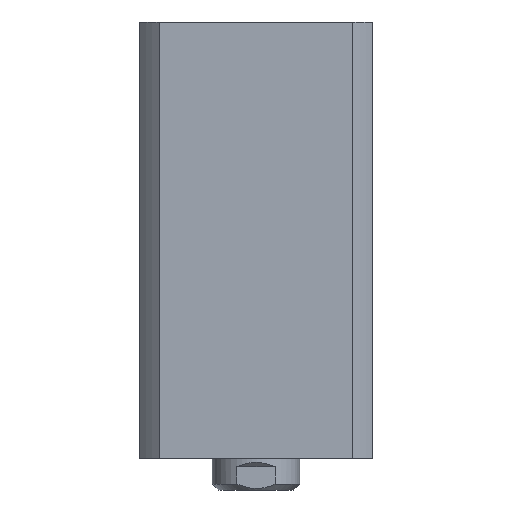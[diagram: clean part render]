
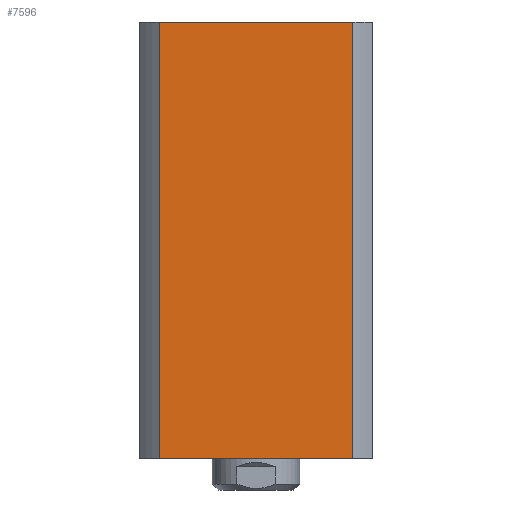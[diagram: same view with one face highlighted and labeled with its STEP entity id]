
A CAD part, left-side view. The second image highlights one B-rep face of the part: STEP entity #7596.
In plain terms, the highlighted planar face has unit normal (-1, 0, 0).
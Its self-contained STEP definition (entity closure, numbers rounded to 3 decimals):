
#680 = DIRECTION ( 'NONE',  ( 0., 0., -1. ) ) ;
#1671 = CARTESIAN_POINT ( 'NONE',  ( -40., 33.226, 75. ) ) ;
#1709 = AXIS2_PLACEMENT_3D ( 'NONE', #3917, #12421, #2785 ) ;
#2449 = DIRECTION ( 'NONE',  ( 0., -1., 0. ) ) ;
#2785 = DIRECTION ( 'NONE',  ( 0., 1., 0. ) ) ;
#2786 = VECTOR ( 'NONE', #14030, 1000. ) ;
#3123 = LINE ( 'NONE', #12796, #2786 ) ;
#3447 = VECTOR ( 'NONE', #8768, 1000. ) ;
#3574 = VERTEX_POINT ( 'NONE', #1671 ) ;
#3724 = ORIENTED_EDGE ( 'NONE', *, *, #12445, .F. ) ;
#3917 = CARTESIAN_POINT ( 'NONE',  ( -40., 33.226, 75. ) ) ;
#4903 = PLANE ( 'NONE',  #1709 ) ;
#5065 = ORIENTED_EDGE ( 'NONE', *, *, #10277, .F. ) ;
#5147 = CARTESIAN_POINT ( 'NONE',  ( -40., -33.226, -75. ) ) ;
#5479 = FACE_OUTER_BOUND ( 'NONE', #9600, .T. ) ;
#6293 = LINE ( 'NONE', #7671, #3447 ) ;
#6571 = VERTEX_POINT ( 'NONE', #10390 ) ;
#7082 = EDGE_CURVE ( 'NONE', #6571, #13546, #10747, .T. ) ;
#7596 = ADVANCED_FACE ( 'NONE', ( #5479 ), #4903, .F. ) ;
#7671 = CARTESIAN_POINT ( 'NONE',  ( -40., 33.226, 75. ) ) ;
#8321 = ORIENTED_EDGE ( 'NONE', *, *, #7082, .T. ) ;
#8433 = VERTEX_POINT ( 'NONE', #8908 ) ;
#8768 = DIRECTION ( 'NONE',  ( 0., -1., 0. ) ) ;
#8908 = CARTESIAN_POINT ( 'NONE',  ( -40., -33.226, 75. ) ) ;
#9176 = EDGE_CURVE ( 'NONE', #3574, #6571, #3123, .T. ) ;
#9600 = EDGE_LOOP ( 'NONE', ( #8321, #3724, #5065, #9605 ) ) ;
#9605 = ORIENTED_EDGE ( 'NONE', *, *, #9176, .T. ) ;
#9735 = VECTOR ( 'NONE', #2449, 1000. ) ;
#9947 = CARTESIAN_POINT ( 'NONE',  ( -40., 33.226, -75. ) ) ;
#10277 = EDGE_CURVE ( 'NONE', #3574, #8433, #6293, .T. ) ;
#10390 = CARTESIAN_POINT ( 'NONE',  ( -40., 33.226, -75. ) ) ;
#10473 = CARTESIAN_POINT ( 'NONE',  ( -40., -33.226, 75. ) ) ;
#10747 = LINE ( 'NONE', #9947, #9735 ) ;
#12024 = LINE ( 'NONE', #10473, #13556 ) ;
#12421 = DIRECTION ( 'NONE',  ( 1., 0., 0. ) ) ;
#12445 = EDGE_CURVE ( 'NONE', #8433, #13546, #12024, .T. ) ;
#12796 = CARTESIAN_POINT ( 'NONE',  ( -40., 33.226, 75. ) ) ;
#13546 = VERTEX_POINT ( 'NONE', #5147 ) ;
#13556 = VECTOR ( 'NONE', #680, 1000. ) ;
#14030 = DIRECTION ( 'NONE',  ( 0., 0., -1. ) ) ;
